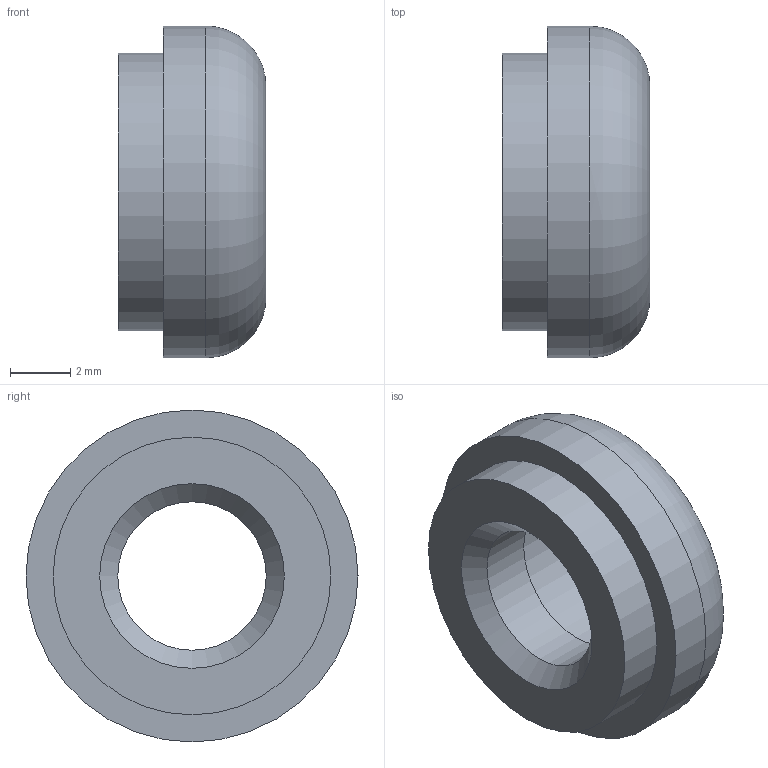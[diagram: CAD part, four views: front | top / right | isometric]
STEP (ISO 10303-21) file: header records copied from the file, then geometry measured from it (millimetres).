
FILE_DESCRIPTION((''),'2;1');
FILE_NAME('C:\Uebbing\PARAMETERKETTEN\PFR\PFR 221\Rändelmutter M6 flach.stp','2012-03-30T08:18:00',('Uebbing'),(''),'Autodesk Inventor 10','Autodesk Inventor 10','');
FILE_SCHEMA(('AUTOMOTIVE_DESIGN { 1 0 10303 214 1 1 1 1 }'));
Length unit declared in the file: millimetre
Products named in the file (1): Rändelmutter M6 flach
Bounding box: 4.9 x 11 x 11 mm (x, y, z)
Volume: 273.1 mm3; surface area: 355.8 mm2
Topology: 1 solids, 1 shells, 10 faces, 19 edges, 12 vertices
Faces by surface type: cylinder 3, plane 3, cone 2, torus 1, bspline 1
Full cylindrical faces by diameter (mm): 6 x1, 9.2 x1, 11 x1
Entity records: 244 total; most frequent: CARTESIAN_POINT 48, DIRECTION 40, AXIS2_PLACEMENT_3D 20, ORIENTED_EDGE 20, EDGE_LOOP 20, VERTEX_POINT 10, CIRCLE 10, EDGE_CURVE 10
